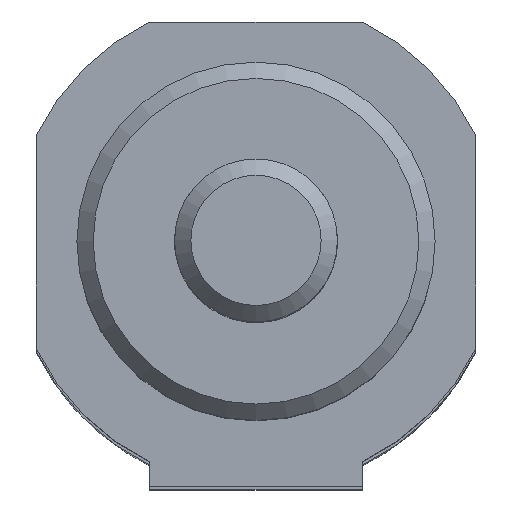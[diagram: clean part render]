
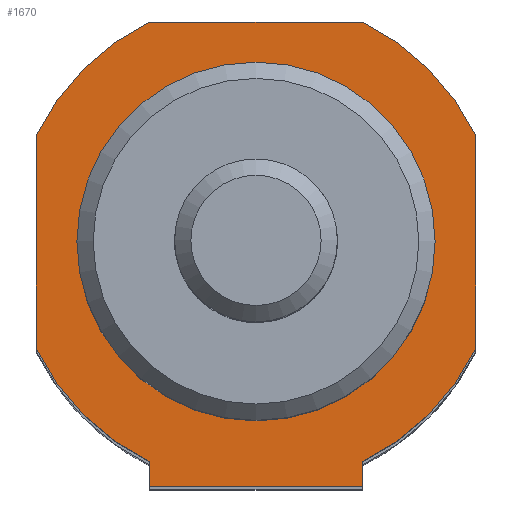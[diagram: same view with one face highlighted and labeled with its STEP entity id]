
A CAD part, top view. The second image highlights one B-rep face of the part: STEP entity #1670.
In plain terms, the highlighted planar face has unit normal (0, 0, 1).
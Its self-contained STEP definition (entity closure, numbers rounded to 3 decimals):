
#101=CARTESIAN_POINT('',(6.538,-15.,161.0));
#102=VERTEX_POINT('',#101);
#103=CARTESIAN_POINT('',(-6.538,-15.,161.0));
#104=VERTEX_POINT('',#103);
#105=CARTESIAN_POINT('',(6.538,-15.,161.0));
#106=DIRECTION('',(-1.0,0.0,0.0));
#107=VECTOR('',#106,13.077);
#108=LINE('',#105,#107);
#109=EDGE_CURVE('',#102,#104,#108,.T.);
#257=CARTESIAN_POINT('',(-6.538,-13.5,161.0));
#258=VERTEX_POINT('',#257);
#272=CARTESIAN_POINT('',(-6.538,-13.5,161.0));
#273=DIRECTION('',(0.0,-1.0,0.0));
#274=VECTOR('',#273,1.5);
#275=LINE('',#272,#274);
#276=EDGE_CURVE('',#258,#104,#275,.T.);
#288=CARTESIAN_POINT('',(6.538,-13.5,161.0));
#289=VERTEX_POINT('',#288);
#296=CARTESIAN_POINT('',(6.538,-13.5,161.0));
#297=DIRECTION('',(0.0,-1.0,0.0));
#298=VECTOR('',#297,1.5);
#299=LINE('',#296,#298);
#300=EDGE_CURVE('',#289,#102,#299,.T.);
#1398=CARTESIAN_POINT('',(11.0,0.,161.0));
#1399=VERTEX_POINT('',#1398);
#1400=CARTESIAN_POINT('',(0.0,0.0,161.0));
#1401=DIRECTION('',(0.0,0.0,-1.0));
#1402=DIRECTION('',(-1.0,0.0,0.0));
#1403=AXIS2_PLACEMENT_3D('',#1400,#1401,#1402);
#1404=CIRCLE('',#1403,11.0);
#1405=EDGE_CURVE('',#1399,#1399,#1404,.T.);
#1490=CARTESIAN_POINT('',(-6.538,13.5,161.0));
#1491=VERTEX_POINT('',#1490);
#1492=CARTESIAN_POINT('',(6.538,13.5,161.0));
#1493=VERTEX_POINT('',#1492);
#1494=CARTESIAN_POINT('',(-6.538,13.5,161.0));
#1495=DIRECTION('',(1.0,0.0,0.0));
#1496=VECTOR('',#1495,13.077);
#1497=LINE('',#1494,#1496);
#1498=EDGE_CURVE('',#1491,#1493,#1497,.T.);
#1521=CARTESIAN_POINT('',(13.5,6.538,161.0));
#1522=VERTEX_POINT('',#1521);
#1523=CARTESIAN_POINT('',(0.,0.,161.0));
#1524=DIRECTION('',(0.,0.,-1.0));
#1525=DIRECTION('',(0.9,0.436,0.));
#1526=AXIS2_PLACEMENT_3D('',#1523,#1524,#1525);
#1527=CIRCLE('',#1526,15.);
#1528=EDGE_CURVE('',#1493,#1522,#1527,.T.);
#1546=CARTESIAN_POINT('',(13.5,-6.538,161.0));
#1547=VERTEX_POINT('',#1546);
#1548=CARTESIAN_POINT('',(13.5,6.538,161.0));
#1549=DIRECTION('',(0.0,-1.0,0.0));
#1550=VECTOR('',#1549,13.077);
#1551=LINE('',#1548,#1550);
#1552=EDGE_CURVE('',#1522,#1547,#1551,.T.);
#1570=CARTESIAN_POINT('',(0.,0.,161.0));
#1571=DIRECTION('',(0.,0.,-1.0));
#1572=DIRECTION('',(0.436,-0.9,0.));
#1573=AXIS2_PLACEMENT_3D('',#1570,#1571,#1572);
#1574=CIRCLE('',#1573,15.);
#1575=EDGE_CURVE('',#1547,#289,#1574,.T.);
#1588=CARTESIAN_POINT('',(-13.5,-6.538,161.0));
#1589=VERTEX_POINT('',#1588);
#1590=CARTESIAN_POINT('',(0.,0.,161.0));
#1591=DIRECTION('',(0.,0.,-1.0));
#1592=DIRECTION('',(-0.9,-0.436,0.));
#1593=AXIS2_PLACEMENT_3D('',#1590,#1591,#1592);
#1594=CIRCLE('',#1593,15.);
#1595=EDGE_CURVE('',#258,#1589,#1594,.T.);
#1613=CARTESIAN_POINT('',(-13.5,6.538,161.0));
#1614=VERTEX_POINT('',#1613);
#1615=CARTESIAN_POINT('',(-13.5,-6.538,161.0));
#1616=DIRECTION('',(0.0,1.0,0.0));
#1617=VECTOR('',#1616,13.077);
#1618=LINE('',#1615,#1617);
#1619=EDGE_CURVE('',#1589,#1614,#1618,.T.);
#1637=CARTESIAN_POINT('',(0.,0.,161.0));
#1638=DIRECTION('',(0.,0.,-1.0));
#1639=DIRECTION('',(-0.436,0.9,0.));
#1640=AXIS2_PLACEMENT_3D('',#1637,#1638,#1639);
#1641=CIRCLE('',#1640,15.);
#1642=EDGE_CURVE('',#1614,#1491,#1641,.T.);
#1650=CARTESIAN_POINT('',(0.,0.0,161.0));
#1651=DIRECTION('',(0.0,0.0,1.0));
#1652=DIRECTION('',(1.0,0.0,0.0));
#1653=AXIS2_PLACEMENT_3D('',#1650,#1651,#1652);
#1654=PLANE('',#1653);
#1655=ORIENTED_EDGE('',*,*,#1498,.F.);
#1656=ORIENTED_EDGE('',*,*,#1642,.F.);
#1657=ORIENTED_EDGE('',*,*,#1619,.F.);
#1658=ORIENTED_EDGE('',*,*,#1595,.F.);
#1659=ORIENTED_EDGE('',*,*,#276,.T.);
#1660=ORIENTED_EDGE('',*,*,#109,.F.);
#1661=ORIENTED_EDGE('',*,*,#300,.F.);
#1662=ORIENTED_EDGE('',*,*,#1575,.F.);
#1663=ORIENTED_EDGE('',*,*,#1552,.F.);
#1664=ORIENTED_EDGE('',*,*,#1528,.F.);
#1665=EDGE_LOOP('',(#1655,#1656,#1657,#1658,#1659,#1660,#1661,#1662,#1663,#1664));
#1666=FACE_OUTER_BOUND('',#1665,.T.);
#1667=ORIENTED_EDGE('',*,*,#1405,.T.);
#1668=EDGE_LOOP('',(#1667));
#1669=FACE_BOUND('',#1668,.T.);
#1670=ADVANCED_FACE('',(#1666,#1669),#1654,.T.);
